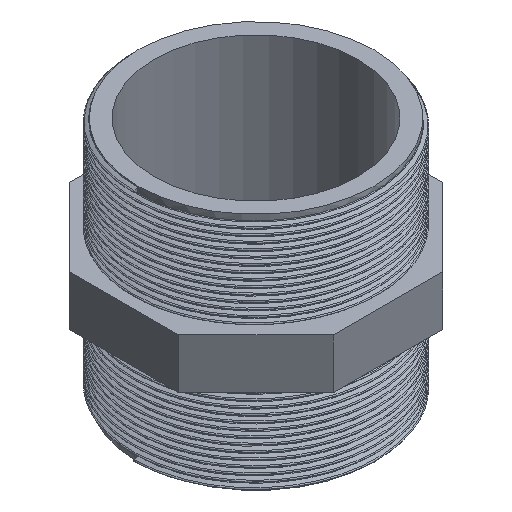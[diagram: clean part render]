
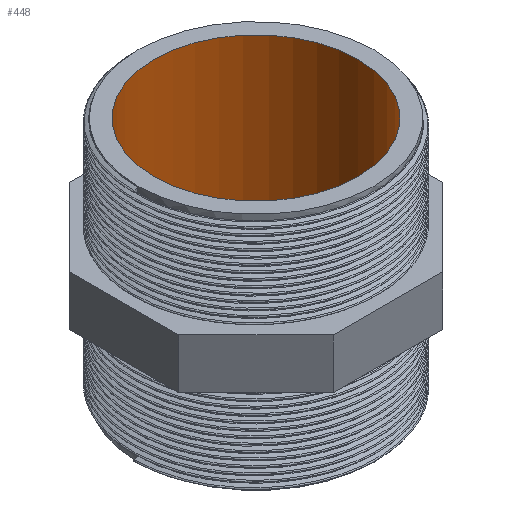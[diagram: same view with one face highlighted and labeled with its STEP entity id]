
A CAD part, isometric view. The second image highlights one B-rep face of the part: STEP entity #448.
In plain terms, the highlighted cylindrical face has radius 36.65 mm (diameter 73.3 mm), a full revolution.
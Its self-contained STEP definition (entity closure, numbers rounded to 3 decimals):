
#17=CYLINDRICAL_SURFACE('',#475,36.65);
#26=CIRCLE('',#476,36.65);
#27=CIRCLE('',#477,36.65);
#40=FACE_BOUND('',#119,.T.);
#89=FACE_OUTER_BOUND('',#118,.T.);
#118=EDGE_LOOP('',(#404));
#119=EDGE_LOOP('',(#405));
#222=VERTEX_POINT('',#11832);
#223=VERTEX_POINT('',#11834);
#284=EDGE_CURVE('',#222,#222,#26,.T.);
#285=EDGE_CURVE('',#223,#223,#27,.T.);
#404=ORIENTED_EDGE('',*,*,#284,.F.);
#405=ORIENTED_EDGE('',*,*,#285,.F.);
#448=ADVANCED_FACE('',(#89,#40),#17,.F.);
#475=AXIS2_PLACEMENT_3D('',#11831,#556,#557);
#476=AXIS2_PLACEMENT_3D('',#11833,#558,#559);
#477=AXIS2_PLACEMENT_3D('',#11835,#560,#561);
#556=DIRECTION('center_axis',(0.,0.,1.));
#557=DIRECTION('ref_axis',(-1.,0.,0.));
#558=DIRECTION('center_axis',(0.,0.,-1.));
#559=DIRECTION('ref_axis',(-1.,0.,0.));
#560=DIRECTION('center_axis',(0.,0.,1.));
#561=DIRECTION('ref_axis',(-1.,0.,0.));
#11831=CARTESIAN_POINT('Origin',(0.,0.,0.));
#11832=CARTESIAN_POINT('',(36.65,0.,43.));
#11833=CARTESIAN_POINT('Origin',(0.,0.,43.));
#11834=CARTESIAN_POINT('',(36.65,0.,-43.));
#11835=CARTESIAN_POINT('Origin',(0.,0.,-43.));
